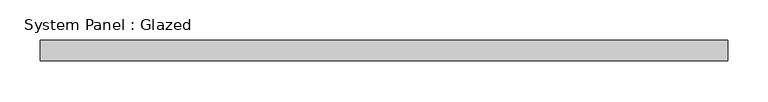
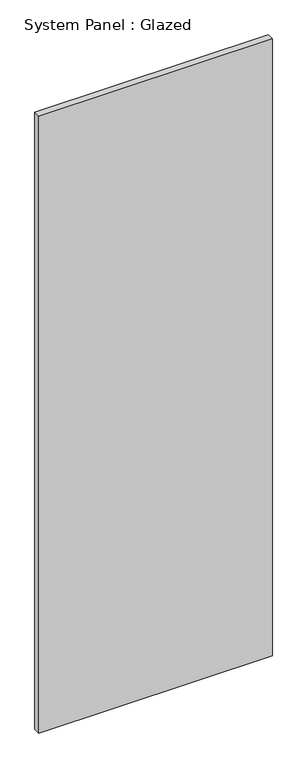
"""IFC4 building model written with IfcOpenShell, lengths in millimetres: plate geometry, System Panel : Glazed."""

from ifc_helpers import new_model, si_unit, origin, origin_with_axes, place, context, project, spatial, polyline, outline, extrude, source, transform, mapped, element, save


def system_panel_glazed_a343adf7(model_context):
    return source(origin(), model_context, "Body", "SweptSolid", [
        extrude(outline(polyline([(425.45, -44.45), (-425.45, -44.45), (-425.45, -19.05), (425.45, -19.05), (425.45, -44.45)])), origin_with_axes(), (0.0, 0.0, 1.0), 2374.9),
    ])


if __name__ == "__main__":
    model = new_model("IFC4")
    model_context = context("Model", 3, world=origin())
    ifc_project = project(units=[si_unit("LENGTHUNIT", "METRE", prefix="MILLI")], contexts=[model_context])
    site = spatial("IfcSite", under=ifc_project)
    building = spatial("IfcBuilding", under=site)
    placement = place(None, origin())
    system_panel_glazed_shape = system_panel_glazed_a343adf7(model_context)
    element("IfcPlate", 1, ObjectType="System Panel : Glazed", at=placement, inside=building, context=model_context, shape_type="MappedRepresentation", body=[
        mapped(system_panel_glazed_shape, transform((0.0, 0.0, 0.0), x_axis=(1.0, 0.0, 0.0), y_axis=(0.0, 1.0, 0.0), z_axis=(0.0, 0.0, 1.0))),
    ])
    save(model, "model.ifc")
